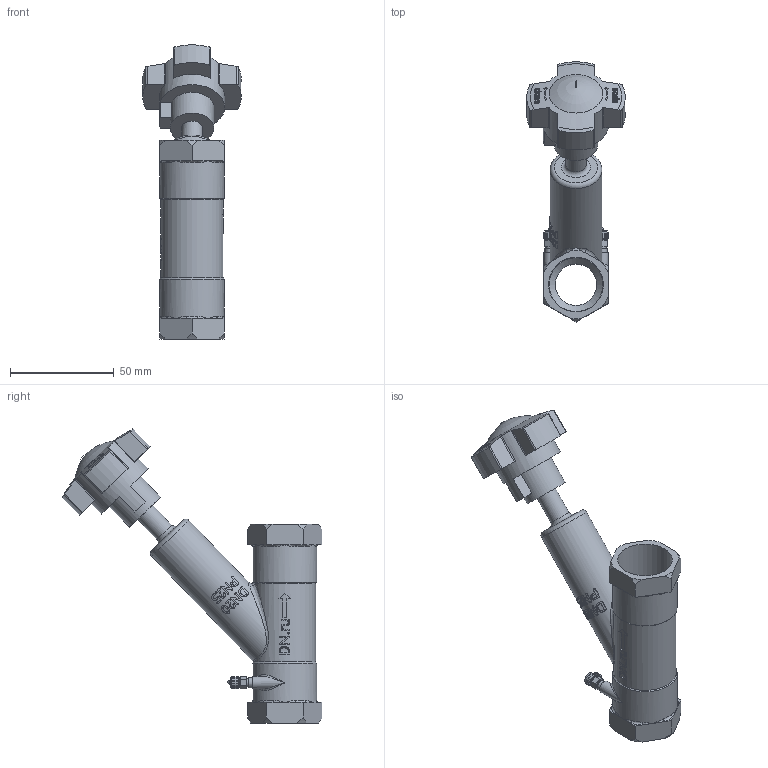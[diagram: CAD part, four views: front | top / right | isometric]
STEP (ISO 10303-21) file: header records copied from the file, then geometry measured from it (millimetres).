
FILE_DESCRIPTION(('STEP AP242'), '1');
FILE_NAME('VB0000P-T Êëàïàí áàëàíñèðîâî÷íûé DN.ru Äó20 Ðó25', '2026-04-26T17:58:51', ('R2D2'), (''), 'C3D Converter', 'C3D Toolkit', '');
FILE_SCHEMA(('AP242_MANAGED_MODEL_BASED_3D_ENGINEERING_MIM_LF { 1 0 10303 442 1 1 4 }'));
Length unit declared in the file: millimetre
Products named in the file (1): VB0000P-T
Bounding box: 47.48 x 125.27 x 141.96 mm (x, y, z)
Volume: 93116.3 mm3; surface area: 29768 mm2
Topology: 1 solids, 2 shells, 748 faces, 2053 edges, 1329 vertices
Faces by surface type: plane 315, extrusion 268, cylinder 78, bspline 32, cone 21, revolution 17, torus 15, sphere 2
Full cylindrical faces by diameter (mm): 2 x2, 4 x6, 5 x2, 6 x2, 10 x1, 20 x1, 21 x2, 25 x1, 26.44 x2, 31 x2, 31.5 x1
Entity records: 47210 total; most frequent: CARTESIAN_POINT 23932, ORIENTED_EDGE 3976, DIRECTION 2607, EDGE_CURVE 1988, VERTEX_POINT 1326, VECTOR 1170, B_SPLINE_CURVE_WITH_KNOTS 1047, LINE 902
